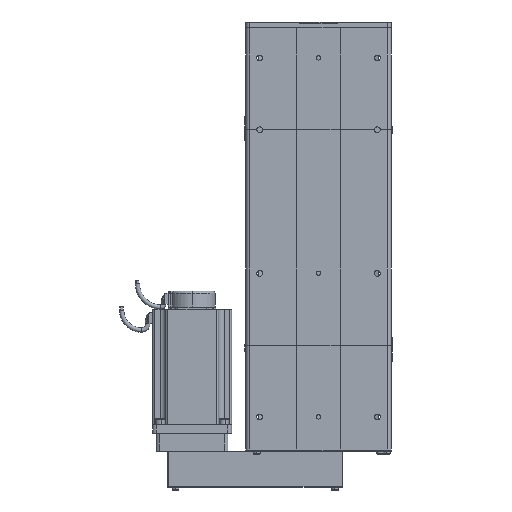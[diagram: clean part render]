
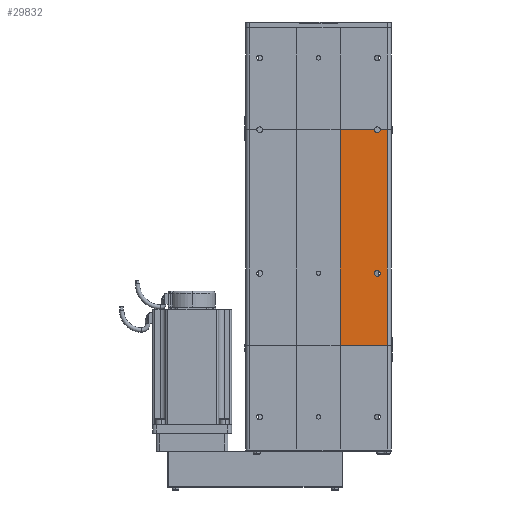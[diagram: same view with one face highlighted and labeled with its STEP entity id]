
A CAD part, front view. The second image highlights one B-rep face of the part: STEP entity #29832.
In plain terms, the highlighted planar face has unit normal (0, -1, 0).
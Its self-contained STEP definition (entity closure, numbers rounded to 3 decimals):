
#9721 = DIRECTION ( 'NONE',  ( 1., 0., 0. ) ) ;
#9722 = DIRECTION ( 'NONE',  ( 0., -1., 0. ) ) ;
#9724 = CIRCLE ( 'NONE', #9728, 4. ) ;
#9728 = AXIS2_PLACEMENT_3D ( 'NONE', #9803, #9722, #9721 ) ;
#9803 = CARTESIAN_POINT ( 'NONE',  ( 82., -34.5, 300. ) ) ;
#28887 = VERTEX_POINT ( 'NONE', #67885 ) ;
#28960 = EDGE_CURVE ( 'NONE', #28887, #28963, #68227, .T. ) ;
#28963 = VERTEX_POINT ( 'NONE', #68218 ) ;
#29196 = EDGE_CURVE ( 'NONE', #29472, #29580, #69549, .T. ) ;
#29235 = VERTEX_POINT ( 'NONE', #69301 ) ;
#29253 = VERTEX_POINT ( 'NONE', #69402 ) ;
#29366 = EDGE_CURVE ( 'NONE', #29235, #29253, #69877, .T. ) ;
#29472 = VERTEX_POINT ( 'NONE', #70656 ) ;
#29580 = VERTEX_POINT ( 'NONE', #71351 ) ;
#29717 = EDGE_CURVE ( 'NONE', #29580, #29817, #71805, .T. ) ;
#29723 = EDGE_CURVE ( 'NONE', #28963, #28887, #71798, .T. ) ;
#29725 = ORIENTED_EDGE ( 'NONE', *, *, #29723, .F. ) ;
#29729 = ORIENTED_EDGE ( 'NONE', *, *, #29942, .F. ) ;
#29755 = EDGE_LOOP ( 'NONE', ( #29725, #29833 ) ) ;
#29813 = ORIENTED_EDGE ( 'NONE', *, *, #29835, .F. ) ;
#29814 = ORIENTED_EDGE ( 'NONE', *, *, #29366, .F. ) ;
#29815 = ORIENTED_EDGE ( 'NONE', *, *, #29717, .F. ) ;
#29816 = EDGE_CURVE ( 'NONE', #29837, #29817, #72604, .T. ) ;
#29817 = VERTEX_POINT ( 'NONE', #72547 ) ;
#29832 = ADVANCED_FACE ( 'NONE', ( #72206, #72264 ), #72382, .F. ) ;
#29833 = ORIENTED_EDGE ( 'NONE', *, *, #28960, .F. ) ;
#29834 = EDGE_LOOP ( 'NONE', ( #29836, #29729, #29814, #29813, #29944, #29815 ) ) ;
#29835 = EDGE_CURVE ( 'NONE', #29837, #29235, #72392, .T. ) ;
#29836 = ORIENTED_EDGE ( 'NONE', *, *, #29196, .F. ) ;
#29837 = VERTEX_POINT ( 'NONE', #72372 ) ;
#29942 = EDGE_CURVE ( 'NONE', #29253, #29472, #9724, .T. ) ;
#29944 = ORIENTED_EDGE ( 'NONE', *, *, #29816, .T. ) ;
#67885 = CARTESIAN_POINT ( 'NONE',  ( 78., -34.5, 100. ) ) ;
#68218 = CARTESIAN_POINT ( 'NONE',  ( 86., -34.5, 100. ) ) ;
#68221 = DIRECTION ( 'NONE',  ( 1., 0., 0. ) ) ;
#68222 = DIRECTION ( 'NONE',  ( 0., -1., 0. ) ) ;
#68223 = CARTESIAN_POINT ( 'NONE',  ( 82., -34.5, 100. ) ) ;
#68224 = AXIS2_PLACEMENT_3D ( 'NONE', #68223, #68222, #68221 ) ;
#68227 = CIRCLE ( 'NONE', #68224, 4. ) ;
#69301 = CARTESIAN_POINT ( 'NONE',  ( 30., -34.5, 300. ) ) ;
#69402 = CARTESIAN_POINT ( 'NONE',  ( 78., -34.5, 300. ) ) ;
#69536 = DIRECTION ( 'NONE',  ( 1., 0., 0. ) ) ;
#69537 = VECTOR ( 'NONE', #69536, 1000. ) ;
#69538 = CARTESIAN_POINT ( 'NONE',  ( -96., -34.5, 300. ) ) ;
#69549 = LINE ( 'NONE', #69538, #69537 ) ;
#69750 = DIRECTION ( 'NONE',  ( 1., 0., 0. ) ) ;
#69751 = VECTOR ( 'NONE', #69750, 1000. ) ;
#69875 = CARTESIAN_POINT ( 'NONE',  ( -96., -34.5, 300. ) ) ;
#69877 = LINE ( 'NONE', #69875, #69751 ) ;
#70656 = CARTESIAN_POINT ( 'NONE',  ( 86., -34.5, 300. ) ) ;
#71351 = CARTESIAN_POINT ( 'NONE',  ( 96., -34.5, 300. ) ) ;
#71798 = CIRCLE ( 'NONE', #71899, 4. ) ;
#71800 = DIRECTION ( 'NONE',  ( 0., 0., -1. ) ) ;
#71802 = VECTOR ( 'NONE', #71800, 1000. ) ;
#71804 = CARTESIAN_POINT ( 'NONE',  ( 96., -34.5, 300. ) ) ;
#71805 = LINE ( 'NONE', #71804, #71802 ) ;
#71889 = DIRECTION ( 'NONE',  ( 0., -1., 0. ) ) ;
#71899 = AXIS2_PLACEMENT_3D ( 'NONE', #71901, #71889, #72149 ) ;
#71901 = CARTESIAN_POINT ( 'NONE',  ( 82., -34.5, 100. ) ) ;
#72149 = DIRECTION ( 'NONE',  ( 1., 0., 0. ) ) ;
#72206 = FACE_BOUND ( 'NONE', #29755, .T. ) ;
#72252 = DIRECTION ( 'NONE',  ( 0., 0., 1. ) ) ;
#72255 = CARTESIAN_POINT ( 'NONE',  ( 30., -34.5, 0. ) ) ;
#72264 = FACE_OUTER_BOUND ( 'NONE', #29834, .T. ) ;
#72370 = VECTOR ( 'NONE', #72252, 1000. ) ;
#72372 = CARTESIAN_POINT ( 'NONE',  ( 30., -34.5, 0. ) ) ;
#72375 = DIRECTION ( 'NONE',  ( -1., 0., 0. ) ) ;
#72376 = DIRECTION ( 'NONE',  ( 0., 1., 0. ) ) ;
#72377 = CARTESIAN_POINT ( 'NONE',  ( -96., -34.5, 300. ) ) ;
#72380 = AXIS2_PLACEMENT_3D ( 'NONE', #72377, #72376, #72375 ) ;
#72382 = PLANE ( 'NONE',  #72380 ) ;
#72392 = LINE ( 'NONE', #72255, #72370 ) ;
#72547 = CARTESIAN_POINT ( 'NONE',  ( 96., -34.5, 0. ) ) ;
#72555 = VECTOR ( 'NONE', #72586, 1000. ) ;
#72586 = DIRECTION ( 'NONE',  ( 1., 0., 0. ) ) ;
#72603 = CARTESIAN_POINT ( 'NONE',  ( -96., -34.5, 0. ) ) ;
#72604 = LINE ( 'NONE', #72603, #72555 ) ;
